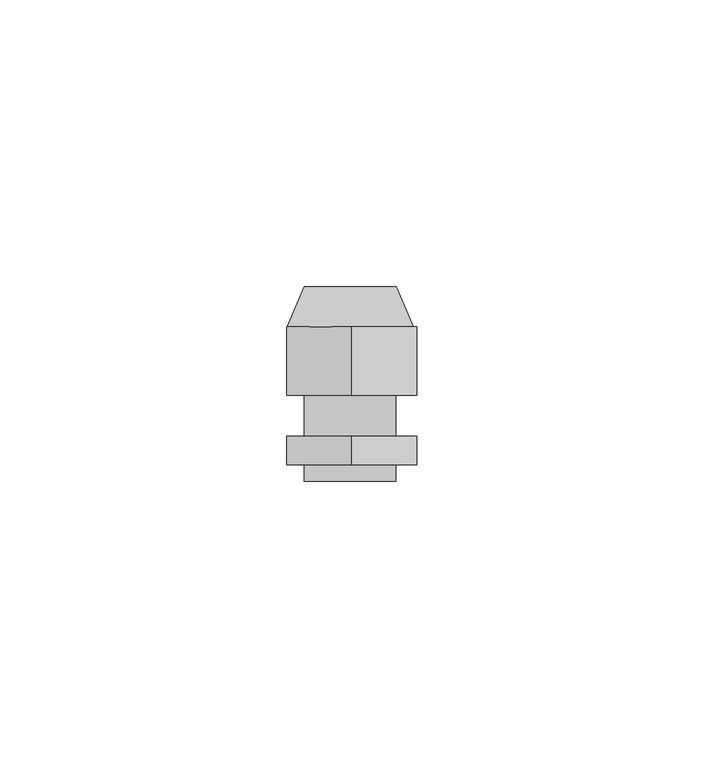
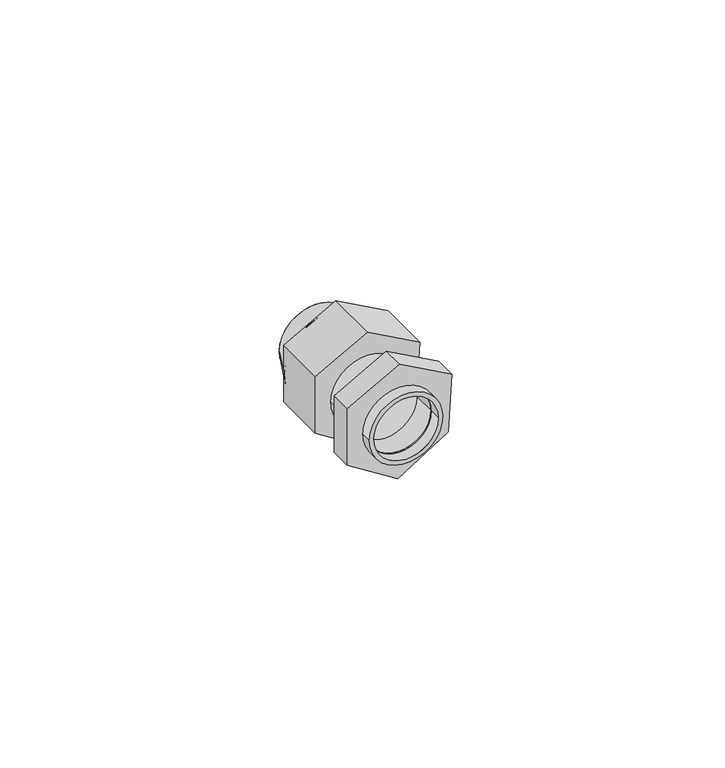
"""IFC4 building model written with IfcOpenShell, lengths in millimetres: cable carrier fitting geometry, Сальник_PGL_D_11-48_IP54 : Сальник PG 9 диаметр проводника 4-8мм IP54."""

from ifc_helpers import new_model, si_unit, point, frame, frame_2d, origin, place, context, project, spatial, polyline, circle_curve, trimmed, segment, composite_curve, outline, extrude, source, transform, mapped, element, save
from ifc_brep_helpers import plane_surface, revolved_surface, advanced_brep


def cable_carrier_fitting_edf6a9a2(model_context):
    return source(origin(), model_context, "Body", "SolidModel", [
        advanced_brep(
        [(-6.9094864, 0.0, 0.0057257), (-6.9094864, -7.0, 0.0057257), (7.0905136, -7.0, 0.0057257), (7.0905136, 0.0, 0.0057257), (-10.9010286, -7.0, 0.0), (11.0989714, -7.0, 0.0), (-7.9010286, 0.0, 0.0), (8.0989714, 0.0, 0.0)],
        [
            (0, 1),
            (1, 2, circle_curve(frame((0.0905136, -7.0, 0.0057257), z_axis=(0.0, -1.0, 0.0), x_axis=(1.0, 0.0, 0.0)), 7.0)),
            (2, 3),
            (3, 0, circle_curve(frame((0.0905136, 0.0, 0.0057257), z_axis=(0.0, 1.0, 0.0), x_axis=(1.0, 0.0, 0.0)), 7.0)),
            (0, 3, circle_curve(frame((0.0905136, 0.0, 0.0057257), z_axis=(0.0, 1.0, 0.0), x_axis=(1.0, 0.0, 0.0)), 7.0)),
            (2, 1, circle_curve(frame((0.0905136, -7.0, 0.0057257), z_axis=(0.0, -1.0, 0.0), x_axis=(1.0, 0.0, 0.0)), 7.0)),
            (4, 5, circle_curve(frame((0.0989714, -7.0, 0.0), z_axis=(0.0, -1.0, 0.0), x_axis=(-1.0, 0.0, 0.0)), 11.0)),
            (5, 4, circle_curve(frame((0.0989714, -7.0, 0.0), z_axis=(0.0, -1.0, 0.0), x_axis=(1.0, 0.0, 0.0)), 11.0)),
            (6, 7, circle_curve(frame((0.0989714, 0.0, 0.0), z_axis=(0.0, 1.0, 0.0), x_axis=(1.0, 0.0, 0.0)), 8.0)),
            (7, 6, circle_curve(frame((0.0989714, 0.0, 0.0), z_axis=(0.0, 1.0, 0.0), x_axis=(-1.0, 0.0, 0.0)), 8.0)),
            (4, 6),
            (7, 5),
        ],
        [
            revolved_surface(polyline([(7.0905136, -7.0, 0.0057257), (7.0905136, 0.0, 0.0057257)]), (0.0905136, 9.180646, 0.0057257), (0.0, -1.0, 0.0)),
            plane_surface(frame((0.0989714, -7.0, 0.0), z_axis=(0.0, -1.0, 0.0), x_axis=(0.0, 0.0, -1.0))),
            plane_surface(frame((0.0989714, 0.0, 0.0), z_axis=(0.0, 1.0, 0.0), x_axis=(0.0, 0.0, -1.0))),
            revolved_surface(polyline([(8.098971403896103, 0.0, 0.0), (11.0989714, -7.0, 0.0)]), (0.0989714, 18.6666667, 0.0), (0.0, -1.0, 0.0)),
            revolved_surface(polyline([(-7.901028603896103, 0.0, 0.0), (-10.9010286, -7.0, 0.0)]), (0.0989714, 18.6666667, 0.0), (0.0, -1.0, 0.0)),
        ],
        [
            (0, [[1, 2, 3, 4]]),
            (0, [[-1, 5, -3, 6]]),
            (1, [[7, 8], [-2, -6]]),
            (2, [[9, 10], [-4, -5]]),
            (3, [[-7, 11, -10, 12]]),
            (4, [[-8, -12, -9, -11]]),
        ],
    ),
        extrude(outline(polyline([(-6.3036131, 11.0), (6.674251, 11.7583163), (12.9713829, 0.3852723), (6.6963869, -11.0), (-6.3036131, -11.0), (-13.2318163, 0.0), (-6.3036131, 11.0)]), holes=[composite_curve([segment(trimmed(circle_curve(frame_2d((0.0057257, 0.0905136)), 7.0), [point((0.0057257, 7.0905136))], [point((0.0057257, -6.9094864))], True, "CARTESIAN"), True, "CONTINUOUS"), segment(trimmed(circle_curve(frame_2d((0.0057257, 0.0905136)), 7.0), [point((0.0057257, -6.9094864))], [point((0.0057257, 7.0905136))], True, "CARTESIAN"), True, "CONTINUOUS")], self_intersect=False)]), frame((0.0, -19.0, 0.0), z_axis=(0.0, 1.0, 0.0), x_axis=(0.0, 0.0, 1.0)), (0.0, 0.0, 1.0), 12.0),
        extrude(outline(polyline([(-6.3036131, 11.0), (6.674251, 11.7583163), (12.9713829, 0.3852723), (6.6963869, -11.0), (-6.3036131, -11.0), (-13.2318163, 0.0), (-6.3036131, 11.0)]), holes=[composite_curve([segment(trimmed(circle_curve(frame_2d((0.0057257, 0.0905136)), 7.0), [point((0.0057257, 7.0905136))], [point((0.0057257, -6.9094864))], True, "CARTESIAN"), True, "CONTINUOUS"), segment(trimmed(circle_curve(frame_2d((0.0057257, 0.0905136)), 7.0), [point((0.0057257, -6.9094864))], [point((0.0057257, 7.0905136))], True, "CARTESIAN"), True, "CONTINUOUS")], self_intersect=False)]), frame((0.0, -31.1018563, 0.0), z_axis=(0.0, 1.0, 0.0), x_axis=(0.0, 0.0, 1.0)), (0.0, 0.0, 1.0), 5.0),
        extrude(outline(composite_curve([segment(trimmed(circle_curve(frame_2d((0.0032191, 0.0900025)), 8.0), [point((0.0032191, -7.9099975))], [point((0.0032191, 8.0900025))], False, "CARTESIAN"), True, "CONTINUOUS"), segment(trimmed(circle_curve(frame_2d((0.0032191, 0.0900025)), 8.0), [point((0.0032191, 8.0900025))], [point((0.0032191, -7.9099975))], False, "CARTESIAN"), True, "CONTINUOUS")], self_intersect=False), holes=[composite_curve([segment(trimmed(circle_curve(frame_2d((0.0057257, 0.0905136)), 7.0), [point((0.0057257, 7.0905136))], [point((0.0057257, -6.9094864))], True, "CARTESIAN"), True, "CONTINUOUS"), segment(trimmed(circle_curve(frame_2d((0.0057257, 0.0905136)), 7.0), [point((0.0057257, -6.9094864))], [point((0.0057257, 7.0905136))], True, "CARTESIAN"), True, "CONTINUOUS")], self_intersect=False)]), frame((0.0, -34.0, 0.0), z_axis=(0.0, 1.0, 0.0), x_axis=(0.0, 0.0, 1.0)), (0.0, 0.0, 1.0), 34.0),
    ])


if __name__ == "__main__":
    model = new_model("IFC4")
    model_context = context("Model", 3, world=origin())
    ifc_project = project(units=[si_unit("LENGTHUNIT", "METRE", prefix="MILLI")], contexts=[model_context])
    site = spatial("IfcSite", under=ifc_project)
    building = spatial("IfcBuilding", under=site)
    placement = place(None, origin())
    cable_carrier_fitting_shape = cable_carrier_fitting_edf6a9a2(model_context)
    element("IfcCableCarrierFitting", 1, ObjectType="Сальник_PGL_D_11-48_IP54 : Сальник PG 9 диаметр проводника 4-8мм IP54", at=placement, inside=building, context=model_context, shape_type="MappedRepresentation", body=[
        mapped(cable_carrier_fitting_shape, transform((0.0, 0.0, 0.0), x_axis=(1.0, 0.0, 0.0), y_axis=(0.0, 1.0, 0.0), z_axis=(0.0, 0.0, 1.0))),
    ])
    save(model, "model.ifc")
